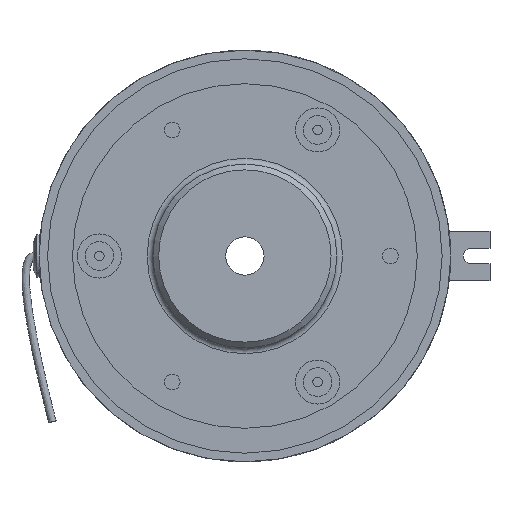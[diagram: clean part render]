
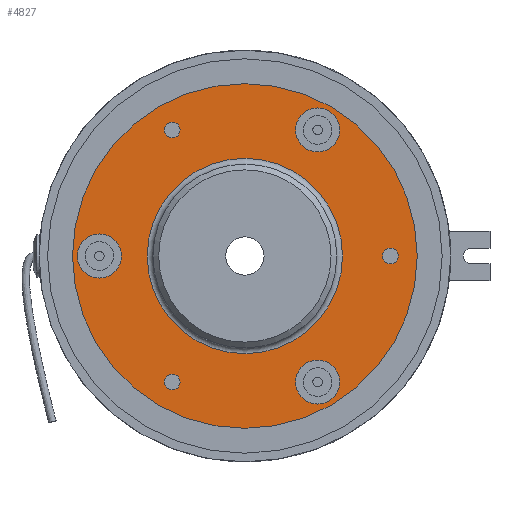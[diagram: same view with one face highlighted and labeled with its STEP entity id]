
A CAD part, left-side view. The second image highlights one B-rep face of the part: STEP entity #4827.
In plain terms, the highlighted planar face has unit normal (-1, 0, 0).
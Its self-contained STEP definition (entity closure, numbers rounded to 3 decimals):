
#103=FACE_BOUND('',#941,.T.);
#104=FACE_BOUND('',#942,.T.);
#105=FACE_BOUND('',#943,.T.);
#106=FACE_BOUND('',#944,.T.);
#107=FACE_BOUND('',#945,.T.);
#108=FACE_BOUND('',#946,.T.);
#109=FACE_BOUND('',#947,.T.);
#210=PLANE('',#5483);
#602=FACE_OUTER_BOUND('',#940,.T.);
#940=EDGE_LOOP('',(#4321));
#941=EDGE_LOOP('',(#4322));
#942=EDGE_LOOP('',(#4323));
#943=EDGE_LOOP('',(#4324));
#944=EDGE_LOOP('',(#4325));
#945=EDGE_LOOP('',(#4326));
#946=EDGE_LOOP('',(#4327));
#947=EDGE_LOOP('',(#4328));
#1468=CIRCLE('',#5457,5.75);
#1470=CIRCLE('',#5460,5.75);
#1472=CIRCLE('',#5463,5.75);
#1474=CIRCLE('',#5466,2.067);
#1475=CIRCLE('',#5468,2.067);
#1476=CIRCLE('',#5470,2.067);
#1483=CIRCLE('',#5481,25.5);
#1485=CIRCLE('',#5484,45.);
#2303=VERTEX_POINT('',#10890);
#2305=VERTEX_POINT('',#10896);
#2307=VERTEX_POINT('',#10902);
#2309=VERTEX_POINT('',#10908);
#2310=VERTEX_POINT('',#10912);
#2311=VERTEX_POINT('',#10916);
#2318=VERTEX_POINT('',#10937);
#2319=VERTEX_POINT('',#10941);
#2973=EDGE_CURVE('',#2303,#2303,#1468,.T.);
#2976=EDGE_CURVE('',#2305,#2305,#1470,.T.);
#2979=EDGE_CURVE('',#2307,#2307,#1472,.T.);
#2982=EDGE_CURVE('',#2309,#2309,#1474,.T.);
#2984=EDGE_CURVE('',#2310,#2310,#1475,.T.);
#2986=EDGE_CURVE('',#2311,#2311,#1476,.T.);
#2996=EDGE_CURVE('',#2318,#2318,#1483,.T.);
#2998=EDGE_CURVE('',#2319,#2319,#1485,.T.);
#4321=ORIENTED_EDGE('',*,*,#2998,.T.);
#4322=ORIENTED_EDGE('',*,*,#2973,.T.);
#4323=ORIENTED_EDGE('',*,*,#2976,.T.);
#4324=ORIENTED_EDGE('',*,*,#2979,.T.);
#4325=ORIENTED_EDGE('',*,*,#2982,.T.);
#4326=ORIENTED_EDGE('',*,*,#2984,.T.);
#4327=ORIENTED_EDGE('',*,*,#2986,.T.);
#4328=ORIENTED_EDGE('',*,*,#2996,.F.);
#4827=ADVANCED_FACE('',(#602,#103,#104,#105,#106,#107,#108,#109),#210,.T.);
#5457=AXIS2_PLACEMENT_3D('',#10891,#6850,#6851);
#5460=AXIS2_PLACEMENT_3D('',#10897,#6857,#6858);
#5463=AXIS2_PLACEMENT_3D('',#10903,#6864,#6865);
#5466=AXIS2_PLACEMENT_3D('',#10909,#6871,#6872);
#5468=AXIS2_PLACEMENT_3D('',#10913,#6876,#6877);
#5470=AXIS2_PLACEMENT_3D('',#10917,#6881,#6882);
#5481=AXIS2_PLACEMENT_3D('',#10938,#6906,#6907);
#5483=AXIS2_PLACEMENT_3D('',#10940,#6910,#6911);
#5484=AXIS2_PLACEMENT_3D('',#10942,#6912,#6913);
#6850=DIRECTION('center_axis',(1.,0.,0.));
#6851=DIRECTION('ref_axis',(0.,0.866,0.5));
#6857=DIRECTION('center_axis',(1.,0.,0.));
#6858=DIRECTION('ref_axis',(0.,0.866,0.5));
#6864=DIRECTION('center_axis',(1.,0.,0.));
#6865=DIRECTION('ref_axis',(0.,0.866,0.5));
#6871=DIRECTION('center_axis',(1.,0.,0.));
#6872=DIRECTION('ref_axis',(0.,0.866,0.5));
#6876=DIRECTION('center_axis',(1.,0.,0.));
#6877=DIRECTION('ref_axis',(0.,0.866,0.5));
#6881=DIRECTION('center_axis',(1.,0.,0.));
#6882=DIRECTION('ref_axis',(0.,0.866,0.5));
#6906=DIRECTION('center_axis',(-1.,0.,0.));
#6907=DIRECTION('ref_axis',(0.,-0.5,0.866));
#6910=DIRECTION('center_axis',(-1.,0.,0.));
#6911=DIRECTION('ref_axis',(0.,0.866,0.5));
#6912=DIRECTION('center_axis',(-1.,0.,0.));
#6913=DIRECTION('ref_axis',(0.,0.866,0.5));
#10890=CARTESIAN_POINT('',(-31.1,-23.98,30.034));
#10891=CARTESIAN_POINT('Origin',(-31.1,-19.,32.909));
#10896=CARTESIAN_POINT('',(-31.1,-23.98,-35.784));
#10897=CARTESIAN_POINT('Origin',(-31.1,-19.,-32.909));
#10902=CARTESIAN_POINT('',(-31.1,33.02,-2.875));
#10903=CARTESIAN_POINT('Origin',(-31.1,38.,0.));
#10908=CARTESIAN_POINT('',(-31.1,-39.79,-1.033));
#10909=CARTESIAN_POINT('Origin',(-31.1,-38.,0.));
#10912=CARTESIAN_POINT('',(-31.1,17.21,-33.942));
#10913=CARTESIAN_POINT('Origin',(-31.1,19.,-32.909));
#10916=CARTESIAN_POINT('',(-31.1,17.21,31.875));
#10917=CARTESIAN_POINT('Origin',(-31.1,19.,32.909));
#10937=CARTESIAN_POINT('',(-31.1,-22.084,-12.75));
#10938=CARTESIAN_POINT('Origin',(-31.1,0.,0.));
#10940=CARTESIAN_POINT('Origin',(-31.1,12.,-20.785));
#10941=CARTESIAN_POINT('',(-31.1,0.,-45.));
#10942=CARTESIAN_POINT('Origin',(-31.1,0.,0.));
